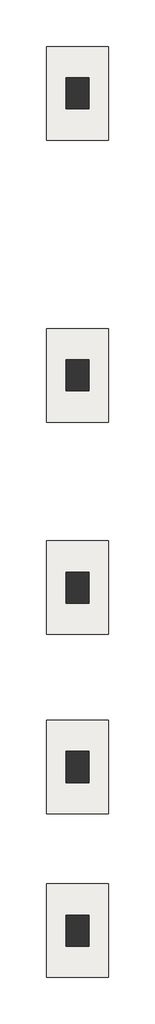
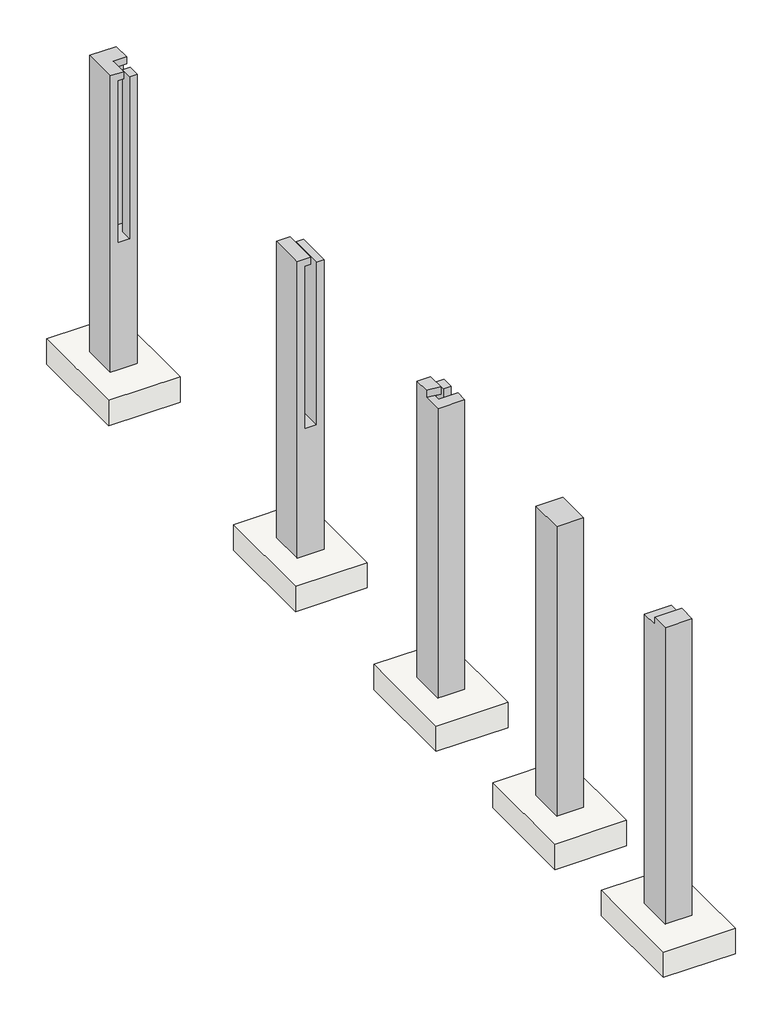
# One storey: 5 columns, 5 slabs.
"""IFC4 building model written with IfcOpenShell, lengths in millimetres."""

from ifc_helpers import new_model, si_unit, frame, origin, place, context, project, spatial, polyline, circle_curve, outline, extrude, faceted_brep, transform, mapped, element, save
from ifc_brep_helpers import plane_surface, revolved_surface, advanced_brep
from components import slab_5ba74754

model = new_model("IFC4")

# Units and contexts
model_context = context("Model", 3, world=origin())
ifc_project = project(units=[si_unit("LENGTHUNIT", "METRE", prefix="MILLI")], contexts=[model_context])

# Site, building, storey
site = spatial("IfcSite", under=ifc_project)
building = spatial("IfcBuilding", under=site)
storey = spatial("IfcBuildingStorey", under=building, Name="Subgrade", Elevation=-2286.0)

# Columns
placement = place(None, origin())
element("IfcColumn", 1, ObjectType="Concrete-Rectangular-Column : 18 x 24", at=placement, inside=storey, context=model_context, shape_type="Brep", body=[
    faceted_brep([(-16004.2573223, 30120.1162395, -2286.0), (-16004.2573223, 29510.5162395, -2286.0), (-16461.4573223, 29510.5162395, -2286.0), (-16461.4573223, 30120.1162395, -2286.0), (-16004.2573223, 30120.1162395, 3048.0), (-16004.2573223, 29815.3162395, 3048.0), (-16004.2573223, 29815.3162395, 2921.0), (-16004.2573223, 29916.9162395, 2921.0), (-16004.2573223, 29916.9162395, 0.0), (-16004.2573223, 29713.7162395, 0.0), (-16004.2573223, 29713.7162395, 2921.0), (-16004.2573223, 29510.5162395, 2921.0), (-16131.2573223, 29510.5162395, 2921.0), (-16131.2573223, 29510.5162395, 0.0), (-16334.4573223, 29510.5162395, 0.0), (-16334.4573223, 29510.5162395, 2921.0), (-16232.8573223, 29510.5162395, 2921.0), (-16232.8573223, 29510.5162395, 3048.0), (-16461.4573223, 29510.5162395, 3048.0), (-16461.4573223, 30120.1162395, 3048.0), (-16232.8573223, 29815.3162395, 3048.0), (-16334.4573223, 29916.9162395, 0.0), (-16334.4573223, 29916.9162395, 2921.0), (-16334.4573223, 29815.3162395, 2921.0), (-16131.2573223, 29713.7162395, 2921.0), (-16131.2573223, 29713.7162395, 0.0), (-16131.2573223, 29916.9162395, 0.0), (-16131.2573223, 29916.9162395, 2921.0), (-16232.8573223, 29916.9162395, 2921.0), (-16232.8573223, 29815.3162395, 2921.0), (-16131.2573223, 29815.3162395, 2921.0)], [[[0, 1, 2, 3]], [[1, 0, 4, 5, 6, 7, 8, 9, 10, 11]], [[2, 1, 11, 12, 13, 14, 15, 16, 17, 18]], [[3, 2, 18, 19]], [[0, 3, 19, 4]], [[19, 18, 17, 20, 5, 4]], [[21, 22, 23, 15, 14]], [[13, 12, 24, 25]], [[22, 21, 26, 8, 7, 27, 28]], [[10, 9, 25, 24]], [[11, 10, 24, 12]], [[20, 29, 30, 6, 5]], [[29, 20, 17, 16]], [[23, 29, 16, 15]], [[29, 28, 27, 7, 6, 30]], [[23, 22, 28, 29]], [[21, 14, 13, 25, 9, 8, 26]]]),
])
element("IfcColumn", 2, ObjectType="Concrete-Rectangular-Column : 18 x 24", at=placement, inside=storey, context=model_context, shape_type="SweptSolid", body=[
    extrude(outline(polyline([(-2286.0, -16461.4573223), (-2286.0, -16004.2573223), (2921.0, -16004.2573223), (2921.0, -16131.2573223), (0.0, -16131.2573223), (0.0, -16334.4573223), (2921.0, -16334.4573223), (2921.0, -16232.8573223), (3048.0, -16232.8573223), (3048.0, -16461.4573223), (-2286.0, -16461.4573223)])), frame((0.0, 23995.7513453, 0.0), z_axis=(0.0, 1.0, 0.0), x_axis=(0.0, 0.0, 1.0)), (0.0, 0.0, 1.0), 609.6),
])
element("IfcColumn", 3, ObjectType="Concrete-Rectangular-Column : 18 x 24", at=placement, inside=storey, context=model_context, shape_type="AdvancedBrep", body=[
    advanced_brep(
    [(-16004.2573223, 20456.1383993, -2286.0), (-16004.2573223, 19846.5383993, -2286.0), (-16461.4573223, 19846.5383993, -2286.0), (-16461.4573223, 20456.1383993, -2286.0), (-16004.2573223, 20456.1383993, 2921.0), (-16004.2573223, 20252.9383993, 2921.0), (-16004.2573223, 20252.9383993, 0.0), (-16004.2573223, 20049.7383993, 0.0), (-16004.2573223, 20049.7383993, 2921.0), (-16004.2573223, 19846.5383993, 2921.0), (-16461.4573223, 19846.5383993, 2921.0), (-16461.4573223, 20183.4289063, 2921.0), (-16461.4573223, 20183.4289063, 3048.0), (-16461.4573223, 20456.1383993, 3048.0), (-16232.8573223, 20456.1383993, 3048.0), (-16232.8573223, 20456.1383993, 2921.0), (-16334.4573223, 20456.1383993, 2921.0), (-16334.4573223, 20456.1383993, 0.0), (-16131.2573223, 20456.1383993, 0.0), (-16131.2573223, 20456.1383993, 2921.0), (-16232.8573223, 20151.3383993, 3048.0), (-16334.4573223, 20167.5689688, 2921.0), (-16334.4573223, 20049.7383993, 2921.0), (-16334.4573223, 20049.7383993, 0.0), (-16131.2573223, 20252.9383993, 0.0), (-16131.2573223, 20252.9383993, 2921.0), (-16232.8573223, 20151.3383993, 2921.0), (-16131.2573223, 20049.7383993, 2921.0), (-16131.2573223, 20049.7383993, 0.0)],
    [
        (0, 1),
        (1, 2),
        (2, 3),
        (3, 0),
        (0, 4),
        (4, 5),
        (5, 6),
        (6, 7),
        (7, 8),
        (8, 9),
        (9, 1),
        (9, 10),
        (10, 2),
        (10, 11),
        (11, 12),
        (12, 13),
        (13, 3),
        (13, 14),
        (14, 15),
        (15, 16),
        (16, 17),
        (17, 18),
        (18, 19),
        (19, 4),
        (12, 20, circle_curve(frame((-16816.5048872, 16823.9383993, 3048.0), z_axis=(0.0, 0.0, -1.0), x_axis=(1.0, 0.0, 0.0)), 3378.2)),
        (20, 14),
        (16, 21),
        (21, 22),
        (22, 23),
        (23, 17),
        (18, 24),
        (24, 25),
        (25, 19),
        (25, 5),
        (26, 20),
        (11, 21, circle_curve(frame((-16816.5048872, 16823.9383993, 2921.0), z_axis=(0.0, 0.0, -1.0), x_axis=(1.0, 0.0, 0.0)), 3378.2)),
        (21, 26, circle_curve(frame((-16816.5048872, 16823.9383993, 2921.0), z_axis=(0.0, 0.0, -1.0), x_axis=(1.0, 0.0, 0.0)), 3378.2)),
        (26, 15),
        (24, 6),
        (22, 27),
        (27, 8),
        (7, 28),
        (28, 23),
    ],
    [
        plane_surface(frame((-16461.4573223, 20456.1383993, -2286.0), z_axis=(0.0, 0.0, -1.0), x_axis=(1.0, 0.0, 0.0))),
        plane_surface(frame((-16004.2573223, 19846.5383993, 3048.0), z_axis=(1.0, 0.0, 0.0), x_axis=(0.0, 0.0, -1.0))),
        plane_surface(frame((-16461.4573223, 19846.5383993, 3048.0), z_axis=(0.0, -1.0, 0.0), x_axis=(0.0, 0.0, -1.0))),
        plane_surface(frame((-16461.4573223, 20456.1383993, 3048.0), z_axis=(-1.0, 0.0, 0.0), x_axis=(0.0, 0.0, -1.0))),
        plane_surface(frame((-16004.2573223, 20456.1383993, 3048.0), z_axis=(0.0, 1.0, 0.0), x_axis=(0.0, 0.0, -1.0))),
        plane_surface(frame((-16461.4573223, 20456.1383993, 3048.0), z_axis=(0.0, 0.0, 1.0), x_axis=(-1.0, 0.0, 0.0))),
        plane_surface(frame((-16334.4573223, 29815.3162395, 0.0), z_axis=(1.0, 0.0, 0.0), x_axis=(0.0, -1.0, 0.0))),
        plane_surface(frame((-16131.2573223, 29815.3162395, 0.0), z_axis=(-1.0, 0.0, 0.0), x_axis=(0.0, 1.0, 0.0))),
        plane_surface(frame((-6631.6573223, 29815.3162395, 2921.0), z_axis=(0.0, 0.0, 1.0), x_axis=(1.0, 0.0, 0.0))),
        revolved_surface(polyline([(-13438.3048872, 16823.9383993, 2921.0), (-13438.3048872, 16823.9383993, 3048.0)]), (-16816.5048872, 16823.9383993, 3048.0), (0.0, 0.0, -1.0)),
        plane_surface(frame((-16232.8573223, 20151.3383993, 2921.0), z_axis=(1.0, 0.0, 0.0), x_axis=(0.0, 0.0, 1.0))),
        plane_surface(frame((-16232.8573223, 20252.9383993, 0.0), z_axis=(0.0, -1.0, 0.0), x_axis=(-1.0, 0.0, 0.0))),
        plane_surface(frame((-16232.8573223, 20049.7383993, 0.0), z_axis=(0.0, 1.0, 0.0), x_axis=(1.0, 0.0, 0.0))),
        plane_surface(frame((-16334.4573223, 20151.3383993, 2921.0), z_axis=(0.0, 0.0, -1.0), x_axis=(1.0, 0.0, 0.0))),
        plane_surface(frame((-16334.4573223, 29815.3162395, 0.0), z_axis=(0.0, 0.0, 1.0), x_axis=(1.0, 0.0, 0.0))),
    ],
    [
        (0, [[1, 2, 3, 4]]),
        (1, [[-1, 5, 6, 7, 8, 9, 10, 11]]),
        (2, [[-2, -11, 12, 13]]),
        (3, [[-3, -13, 14, 15, 16, 17]]),
        (4, [[-4, -17, 18, 19, 20, 21, 22, 23, 24, -5]]),
        (5, [[-16, 25, 26, -18]]),
        (6, [[-21, 27, 28, 29, 30]]),
        (7, [[-23, 31, 32, 33]]),
        (8, [[-24, -33, 34, -6]]),
        (9, [[35, -25, -15, 36, 37]]),
        (10, [[-35, 38, -19, -26]]),
        (11, [[39, -7, -34, -32]]),
        (12, [[-29, 40, 41, -9, 42, 43]]),
        (13, [[-27, -20, -38, -37]]),
        (14, [[-43, -42, -8, -39, -31, -22, -30]]),
        (8, [[-12, -10, -41, -40, -28, -36, -14]]),
    ],
),
])
element("IfcColumn", 4, ObjectType="Concrete-Rectangular-Column : 18 x 24", at=placement, inside=storey, context=model_context, shape_type="SweptSolid", body=[
    extrude(outline(polyline([(13750.5383993, -2286.0), (13140.9383993, -2286.0), (13140.9383993, 3048.0), (13445.7383993, 3048.0), (13445.7383993, 2921.0), (13750.5383993, 2921.0), (13750.5383993, -2286.0)])), frame((-16461.4573223, 0.0, 0.0), z_axis=(1.0, 0.0, 0.0), x_axis=(0.0, 1.0, 0.0)), (0.0, 0.0, 1.0), 457.2),
])
element("IfcColumn", 5, ObjectType="Concrete-Rectangular-Column : 18 x 24", at=placement, inside=storey, context=model_context, shape_type="SweptSolid", body=[
    extrude(outline(polyline([(-16004.2573223, 16950.9383993), (-16004.2573223, 16341.3383993), (-16461.4573223, 16341.3383993), (-16461.4573223, 16950.9383993), (-16004.2573223, 16950.9383993)])), frame((0.0, 0.0, -2286.0), z_axis=(0.0, 0.0, 1.0), x_axis=(1.0, 0.0, 0.0)), (0.0, 0.0, 1.0), 5207.0),
])

# Slabs
slab_shape = slab_5ba74754(model_context)
element("IfcSlab", 6, ObjectType="Footing-Rectangular : 72\" x 48\" x 18\"", at=placement, inside=storey, context=model_context, shape_type="MappedRepresentation", body=[
    mapped(slab_shape, transform((-16232.8573223, 29815.3162395, -2286.0), x_axis=(1.0, 0.0, 0.0), y_axis=(0.0, 1.0, 0.0), z_axis=(0.0, 0.0, 1.0))),
])
element("IfcSlab", 7, ObjectType="Footing-Rectangular : 72\" x 48\" x 18\"", at=placement, inside=storey, context=model_context, shape_type="MappedRepresentation", body=[
    mapped(slab_shape, transform((-16232.8573223, 24300.5513453, -2286.0), x_axis=(1.0, 0.0, 0.0), y_axis=(0.0, 1.0, 0.0), z_axis=(0.0, 0.0, 1.0))),
])
element("IfcSlab", 8, ObjectType="Footing-Rectangular : 72\" x 48\" x 18\"", at=placement, inside=storey, context=model_context, shape_type="MappedRepresentation", body=[
    mapped(slab_shape, transform((-16232.8573223, 20151.3383993, -2286.0), x_axis=(1.0, 0.0, 0.0), y_axis=(0.0, 1.0, 0.0), z_axis=(0.0, 0.0, 1.0))),
])
element("IfcSlab", 9, ObjectType="Footing-Rectangular : 72\" x 48\" x 18\"", at=placement, inside=storey, context=model_context, shape_type="MappedRepresentation", body=[
    mapped(slab_shape, transform((-16232.8573223, 16646.1383993, -2286.0), x_axis=(1.0, 0.0, 0.0), y_axis=(0.0, 1.0, 0.0), z_axis=(0.0, 0.0, 1.0))),
])
element("IfcSlab", 10, ObjectType="Footing-Rectangular : 72\" x 48\" x 18\"", at=placement, inside=storey, context=model_context, shape_type="MappedRepresentation", body=[
    mapped(slab_shape, transform((-16232.8573223, 13445.7383993, -2286.0), x_axis=(1.0, 0.0, 0.0), y_axis=(0.0, 1.0, 0.0), z_axis=(0.0, 0.0, 1.0))),
])

save(model, "model.ifc")
